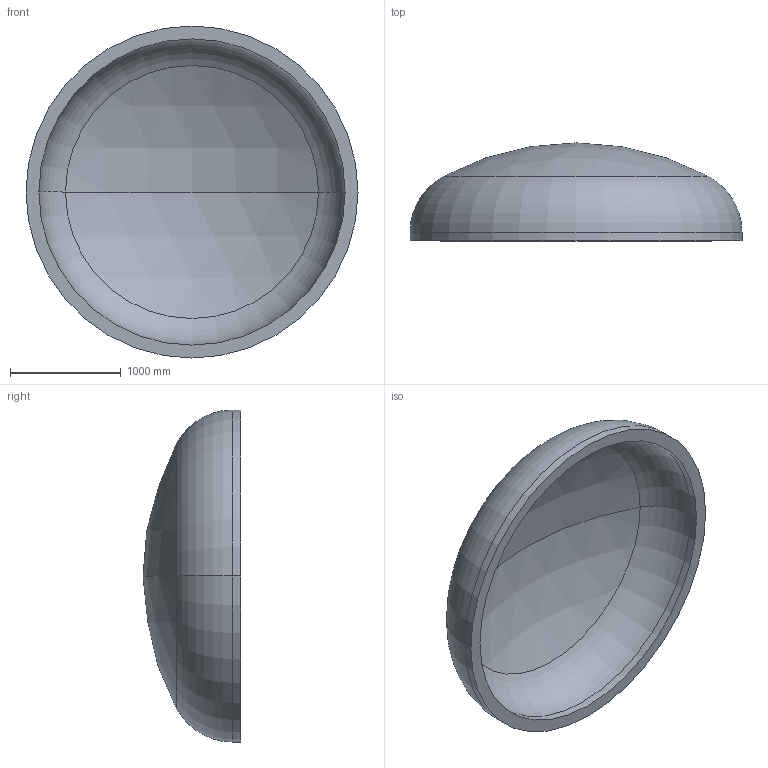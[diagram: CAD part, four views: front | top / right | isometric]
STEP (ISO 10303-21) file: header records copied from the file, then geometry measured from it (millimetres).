
FILE_DESCRIPTION (( 'STEP AP203' ), '1' );
FILE_NAME ('DIN 28013 Korbbogenform_-_Boden DIN 28013 - 3000 x 75 - I - s=116.step', '2016-07-01T18:11:47', ( '' ), ( '' ), 'SwSTEP 2.0', 'SolidWorks 2013', '' );
FILE_SCHEMA (( 'CONFIG_CONTROL_DESIGN' ));
Length unit declared in the file: millimetre
Products named in the file (1): DIN 28013 Korbbogenform_-_Boden DIN 28013 - 3000 x 75 - I - s=116
Bounding box: 3000 x 885.18 x 3000 mm (x, y, z)
Volume: 1157951711.7 mm3; surface area: 21043861.5 mm2
Topology: 1 solids, 1 shells, 13 faces, 24 edges, 14 vertices
Faces by surface type: torus 4, cylinder 4, sphere 4, plane 1
Entity records: 407 total; most frequent: DIRECTION 72, CARTESIAN_POINT 52, ORIENTED_EDGE 48, AXIS2_PLACEMENT_3D 34, EDGE_CURVE 24, CIRCLE 20, EDGE_LOOP 14, VERTEX_POINT 14
